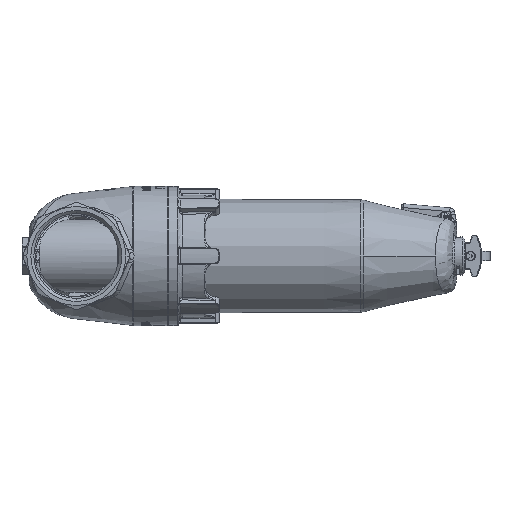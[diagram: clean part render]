
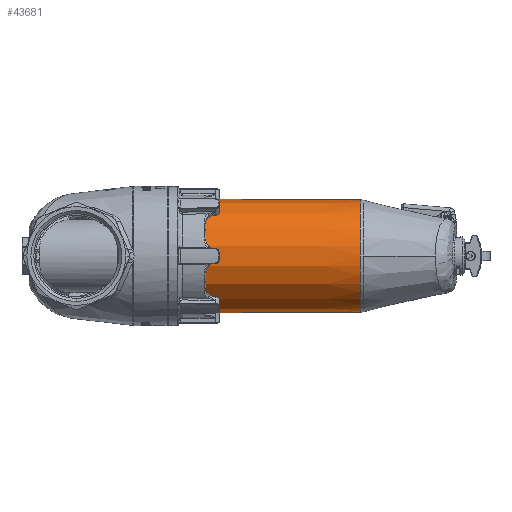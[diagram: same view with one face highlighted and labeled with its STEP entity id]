
A CAD part, left-side view. The second image highlights one B-rep face of the part: STEP entity #43681.
In plain terms, the highlighted conical face has half-angle 0.232 degrees and reference radius 38.346 mm.
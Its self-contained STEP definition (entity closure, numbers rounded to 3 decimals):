
#3400 = VECTOR ( 'NONE', #44106, 1000. ) ;
#6607 = ORIENTED_EDGE ( 'NONE', *, *, #116484, .F. ) ;
#7842 = CARTESIAN_POINT ( 'NONE',  ( 0., -44.996, 0. ) ) ;
#12515 = AXIS2_PLACEMENT_3D ( 'NONE', #114253, #81360, #116340 ) ;
#15797 = CARTESIAN_POINT ( 'NONE',  ( 0., -191.109, 37.754 ) ) ;
#17692 = FACE_OUTER_BOUND ( 'NONE', #29795, .T. ) ;
#29795 = EDGE_LOOP ( 'NONE', ( #6607, #116367, #78217, #117701 ) ) ;
#31365 = DIRECTION ( 'NONE',  ( 0., 1., 0. ) ) ;
#32973 = CARTESIAN_POINT ( 'NONE',  ( 0., -44.996, 38.346 ) ) ;
#36557 = AXIS2_PLACEMENT_3D ( 'NONE', #7842, #93802, #125408 ) ;
#39683 = DIRECTION ( 'NONE',  ( 0., 1., -0.004 ) ) ;
#41831 = CARTESIAN_POINT ( 'NONE',  ( 0., -191.109, 0. ) ) ;
#43681 = ADVANCED_FACE ( 'NONE', ( #17692 ), #106238, .T. ) ;
#44106 = DIRECTION ( 'NONE',  ( 0., 1., 0.004 ) ) ;
#47884 = EDGE_CURVE ( 'NONE', #88126, #56272, #67796, .T. ) ;
#49838 = VECTOR ( 'NONE', #39683, 1000. ) ;
#53159 = CARTESIAN_POINT ( 'NONE',  ( 0., -44.996, 38.346 ) ) ;
#56272 = VERTEX_POINT ( 'NONE', #134053 ) ;
#63965 = VERTEX_POINT ( 'NONE', #15797 ) ;
#65144 = AXIS2_PLACEMENT_3D ( 'NONE', #41831, #31365, #87135 ) ;
#67796 = CIRCLE ( 'NONE', #36557, 38.346 ) ;
#71075 = VERTEX_POINT ( 'NONE', #130417 ) ;
#72550 = LINE ( 'NONE', #105454, #49838 ) ;
#78217 = ORIENTED_EDGE ( 'NONE', *, *, #118417, .T. ) ;
#78256 = CIRCLE ( 'NONE', #65144, 37.754 ) ;
#81360 = DIRECTION ( 'NONE',  ( 0., 1., 0. ) ) ;
#87135 = DIRECTION ( 'NONE',  ( 0., 0., 1. ) ) ;
#87347 = EDGE_CURVE ( 'NONE', #71075, #63965, #78256, .T. ) ;
#88126 = VERTEX_POINT ( 'NONE', #53159 ) ;
#93802 = DIRECTION ( 'NONE',  ( 0., -1., 0. ) ) ;
#105454 = CARTESIAN_POINT ( 'NONE',  ( 0., -44.996, -38.346 ) ) ;
#106238 = CONICAL_SURFACE ( 'NONE', #12515, 38.346, 0.004 ) ;
#114253 = CARTESIAN_POINT ( 'NONE',  ( 0., -44.996, 0. ) ) ;
#116340 = DIRECTION ( 'NONE',  ( 0., 0., 1. ) ) ;
#116367 = ORIENTED_EDGE ( 'NONE', *, *, #87347, .T. ) ;
#116484 = EDGE_CURVE ( 'NONE', #71075, #56272, #72550, .T. ) ;
#117701 = ORIENTED_EDGE ( 'NONE', *, *, #47884, .T. ) ;
#118404 = LINE ( 'NONE', #32973, #3400 ) ;
#118417 = EDGE_CURVE ( 'NONE', #63965, #88126, #118404, .T. ) ;
#125408 = DIRECTION ( 'NONE',  ( 0., 0., 1. ) ) ;
#130417 = CARTESIAN_POINT ( 'NONE',  ( 0., -191.109, -37.754 ) ) ;
#134053 = CARTESIAN_POINT ( 'NONE',  ( 0., -44.996, -38.346 ) ) ;
